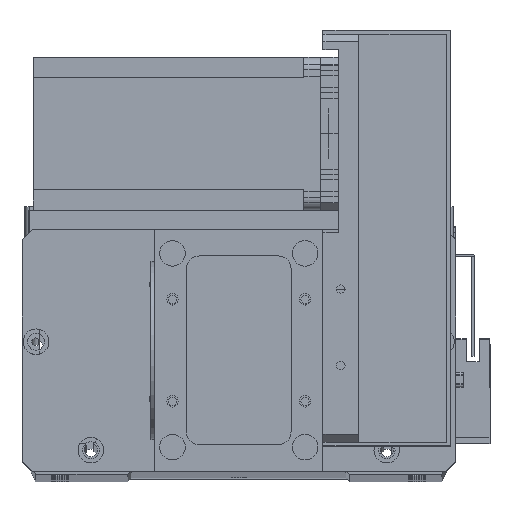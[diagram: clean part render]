
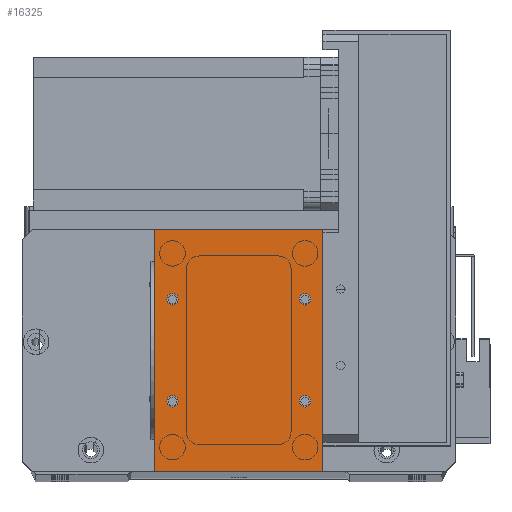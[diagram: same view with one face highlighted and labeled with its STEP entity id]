
A CAD part, top view. The second image highlights one B-rep face of the part: STEP entity #16325.
In plain terms, the highlighted planar face has unit normal (0, 0, 1).
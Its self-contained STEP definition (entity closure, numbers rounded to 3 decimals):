
#80 = ORIENTED_EDGE ( 'NONE', *, *, #12524, .F. ) ;
#491 = AXIS2_PLACEMENT_3D ( 'NONE', #8895, #26570, #11441 ) ;
#798 = VERTEX_POINT ( 'NONE', #13545 ) ;
#1602 = DIRECTION ( 'NONE',  ( 0., 0., 1. ) ) ;
#2138 = PLANE ( 'NONE',  #20628 ) ;
#2296 = CARTESIAN_POINT ( 'NONE',  ( 59., 27.5, 2. ) ) ;
#2958 = DIRECTION ( 'NONE',  ( 1., 0., 0. ) ) ;
#4157 = CARTESIAN_POINT ( 'NONE',  ( 66., 95., 2. ) ) ;
#4234 = ORIENTED_EDGE ( 'NONE', *, *, #4821, .F. ) ;
#4286 = AXIS2_PLACEMENT_3D ( 'NONE', #11550, #29168, #14064 ) ;
#4453 = VERTEX_POINT ( 'NONE', #30911 ) ;
#4821 = EDGE_CURVE ( 'NONE', #29094, #798, #18107, .T. ) ;
#4865 = DIRECTION ( 'NONE',  ( 1., 0., 0. ) ) ;
#4897 = AXIS2_PLACEMENT_3D ( 'NONE', #2296, #20010, #4865 ) ;
#4905 = EDGE_CURVE ( 'NONE', #21174, #13499, #9833, .T. ) ;
#5105 = CIRCLE ( 'NONE', #4286, 2.25 ) ;
#5134 = FACE_OUTER_BOUND ( 'NONE', #30933, .T. ) ;
#5287 = DIRECTION ( 'NONE',  ( 0., 0., 1. ) ) ;
#5329 = VERTEX_POINT ( 'NONE', #29574 ) ;
#5922 = FACE_BOUND ( 'NONE', #24293, .T. ) ;
#6315 = VECTOR ( 'NONE', #22227, 1000. ) ;
#6733 = ORIENTED_EDGE ( 'NONE', *, *, #24830, .F. ) ;
#6742 = CARTESIAN_POINT ( 'NONE',  ( 4.75, 27.5, 2. ) ) ;
#7246 = DIRECTION ( 'NONE',  ( 0., 0., -1. ) ) ;
#7518 = AXIS2_PLACEMENT_3D ( 'NONE', #10768, #28378, #13295 ) ;
#7991 = ORIENTED_EDGE ( 'NONE', *, *, #11066, .F. ) ;
#8413 = ORIENTED_EDGE ( 'NONE', *, *, #21009, .F. ) ;
#8895 = CARTESIAN_POINT ( 'NONE',  ( 59., 67.5, 2. ) ) ;
#8990 = EDGE_CURVE ( 'NONE', #19754, #11430, #13952, .T. ) ;
#9306 = ORIENTED_EDGE ( 'NONE', *, *, #15234, .T. ) ;
#9314 = ORIENTED_EDGE ( 'NONE', *, *, #28277, .T. ) ;
#9782 = CARTESIAN_POINT ( 'NONE',  ( 7., 67.5, 2. ) ) ;
#9833 = LINE ( 'NONE', #12463, #29148 ) ;
#10768 = CARTESIAN_POINT ( 'NONE',  ( 7., 67.5, 2. ) ) ;
#11066 = EDGE_CURVE ( 'NONE', #18071, #12263, #14984, .T. ) ;
#11073 = VERTEX_POINT ( 'NONE', #4157 ) ;
#11430 = VERTEX_POINT ( 'NONE', #13314 ) ;
#11441 = DIRECTION ( 'NONE',  ( 1., 0., 0. ) ) ;
#11550 = CARTESIAN_POINT ( 'NONE',  ( 59., 27.5, 2. ) ) ;
#11877 = FACE_BOUND ( 'NONE', #22321, .T. ) ;
#12141 = CARTESIAN_POINT ( 'NONE',  ( 9.25, 27.5, 2. ) ) ;
#12263 = VERTEX_POINT ( 'NONE', #6742 ) ;
#12344 = DIRECTION ( 'NONE',  ( 1., 0., 0. ) ) ;
#12373 = DIRECTION ( 'NONE',  ( 0., -1., 0. ) ) ;
#12463 = CARTESIAN_POINT ( 'NONE',  ( 0., 0., 2. ) ) ;
#12524 = EDGE_CURVE ( 'NONE', #12263, #18071, #17577, .T. ) ;
#13295 = DIRECTION ( 'NONE',  ( 1., 0., 0. ) ) ;
#13314 = CARTESIAN_POINT ( 'NONE',  ( 9.25, 67.5, 2. ) ) ;
#13394 = ORIENTED_EDGE ( 'NONE', *, *, #4905, .T. ) ;
#13499 = VERTEX_POINT ( 'NONE', #25738 ) ;
#13545 = CARTESIAN_POINT ( 'NONE',  ( 61.25, 67.5, 2. ) ) ;
#13952 = CIRCLE ( 'NONE', #7518, 2.25 ) ;
#14064 = DIRECTION ( 'NONE',  ( 1., 0., 0. ) ) ;
#14082 = AXIS2_PLACEMENT_3D ( 'NONE', #9782, #27443, #12344 ) ;
#14289 = VECTOR ( 'NONE', #2958, 1000. ) ;
#14984 = CIRCLE ( 'NONE', #20495, 2.25 ) ;
#15234 = EDGE_CURVE ( 'NONE', #13499, #15804, #29284, .T. ) ;
#15406 = EDGE_LOOP ( 'NONE', ( #19259, #8413 ) ) ;
#15534 = DIRECTION ( 'NONE',  ( 1., 0., 0. ) ) ;
#15620 = DIRECTION ( 'NONE',  ( 0., 0., 1. ) ) ;
#15679 = CARTESIAN_POINT ( 'NONE',  ( 59., 67.5, 2. ) ) ;
#15804 = VERTEX_POINT ( 'NONE', #22959 ) ;
#16325 = ADVANCED_FACE ( 'NONE', ( #5922, #11877, #25295, #18562, #5134 ), #2138, .F. ) ;
#16749 = CARTESIAN_POINT ( 'NONE',  ( 7., 27.5, 2. ) ) ;
#16767 = EDGE_CURVE ( 'NONE', #5329, #4453, #5105, .T. ) ;
#17577 = CIRCLE ( 'NONE', #25828, 2.25 ) ;
#18058 = VECTOR ( 'NONE', #27181, 1000. ) ;
#18071 = VERTEX_POINT ( 'NONE', #12141 ) ;
#18107 = CIRCLE ( 'NONE', #31176, 2.25 ) ;
#18562 = FACE_BOUND ( 'NONE', #19105, .T. ) ;
#19090 = CIRCLE ( 'NONE', #491, 2.25 ) ;
#19105 = EDGE_LOOP ( 'NONE', ( #7991, #80 ) ) ;
#19212 = EDGE_CURVE ( 'NONE', #11073, #21174, #26488, .T. ) ;
#19259 = ORIENTED_EDGE ( 'NONE', *, *, #16767, .F. ) ;
#19286 = DIRECTION ( 'NONE',  ( 1., 0., 0. ) ) ;
#19555 = CARTESIAN_POINT ( 'NONE',  ( 66., 0., 2. ) ) ;
#19653 = LINE ( 'NONE', #19555, #18058 ) ;
#19754 = VERTEX_POINT ( 'NONE', #21966 ) ;
#20010 = DIRECTION ( 'NONE',  ( 0., 0., 1. ) ) ;
#20424 = CARTESIAN_POINT ( 'NONE',  ( 7., 27.5, 2. ) ) ;
#20495 = AXIS2_PLACEMENT_3D ( 'NONE', #16749, #1602, #19286 ) ;
#20541 = CARTESIAN_POINT ( 'NONE',  ( 0., 95., 2. ) ) ;
#20628 = AXIS2_PLACEMENT_3D ( 'NONE', #29832, #7246, #24930 ) ;
#20670 = CARTESIAN_POINT ( 'NONE',  ( 0., 0., 2. ) ) ;
#21009 = EDGE_CURVE ( 'NONE', #4453, #5329, #22817, .T. ) ;
#21174 = VERTEX_POINT ( 'NONE', #20541 ) ;
#21966 = CARTESIAN_POINT ( 'NONE',  ( 4.75, 67.5, 2. ) ) ;
#22227 = DIRECTION ( 'NONE',  ( -1., 0., 0. ) ) ;
#22321 = EDGE_LOOP ( 'NONE', ( #6733, #4234 ) ) ;
#22661 = CIRCLE ( 'NONE', #14082, 2.25 ) ;
#22817 = CIRCLE ( 'NONE', #4897, 2.25 ) ;
#22959 = CARTESIAN_POINT ( 'NONE',  ( 66., 0., 2. ) ) ;
#22978 = DIRECTION ( 'NONE',  ( 1., 0., 0. ) ) ;
#24293 = EDGE_LOOP ( 'NONE', ( #31398, #31592 ) ) ;
#24830 = EDGE_CURVE ( 'NONE', #798, #29094, #19090, .T. ) ;
#24930 = DIRECTION ( 'NONE',  ( -1., 0., 0. ) ) ;
#24932 = EDGE_CURVE ( 'NONE', #11430, #19754, #22661, .T. ) ;
#25295 = FACE_BOUND ( 'NONE', #15406, .T. ) ;
#25352 = CARTESIAN_POINT ( 'NONE',  ( 56.75, 67.5, 2. ) ) ;
#25738 = CARTESIAN_POINT ( 'NONE',  ( 0., 0., 2. ) ) ;
#25828 = AXIS2_PLACEMENT_3D ( 'NONE', #20424, #5287, #22978 ) ;
#26488 = LINE ( 'NONE', #32265, #6315 ) ;
#26570 = DIRECTION ( 'NONE',  ( 0., 0., 1. ) ) ;
#27181 = DIRECTION ( 'NONE',  ( 0., 1., 0. ) ) ;
#27443 = DIRECTION ( 'NONE',  ( 0., 0., 1. ) ) ;
#28277 = EDGE_CURVE ( 'NONE', #15804, #11073, #19653, .T. ) ;
#28378 = DIRECTION ( 'NONE',  ( 0., 0., 1. ) ) ;
#29094 = VERTEX_POINT ( 'NONE', #25352 ) ;
#29148 = VECTOR ( 'NONE', #12373, 1000. ) ;
#29168 = DIRECTION ( 'NONE',  ( 0., 0., 1. ) ) ;
#29284 = LINE ( 'NONE', #20670, #14289 ) ;
#29574 = CARTESIAN_POINT ( 'NONE',  ( 61.25, 27.5, 2. ) ) ;
#29832 = CARTESIAN_POINT ( 'NONE',  ( 0., 0., 2. ) ) ;
#30911 = CARTESIAN_POINT ( 'NONE',  ( 56.75, 27.5, 2. ) ) ;
#30933 = EDGE_LOOP ( 'NONE', ( #13394, #9306, #9314, #31637 ) ) ;
#31176 = AXIS2_PLACEMENT_3D ( 'NONE', #15679, #15620, #15534 ) ;
#31398 = ORIENTED_EDGE ( 'NONE', *, *, #24932, .F. ) ;
#31592 = ORIENTED_EDGE ( 'NONE', *, *, #8990, .F. ) ;
#31637 = ORIENTED_EDGE ( 'NONE', *, *, #19212, .T. ) ;
#32265 = CARTESIAN_POINT ( 'NONE',  ( 0., 95., 2. ) ) ;
